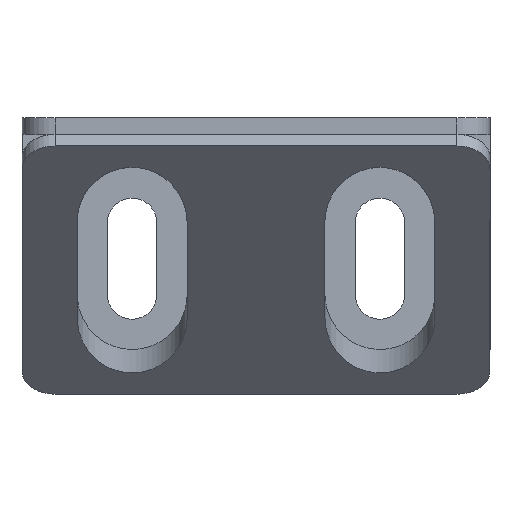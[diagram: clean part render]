
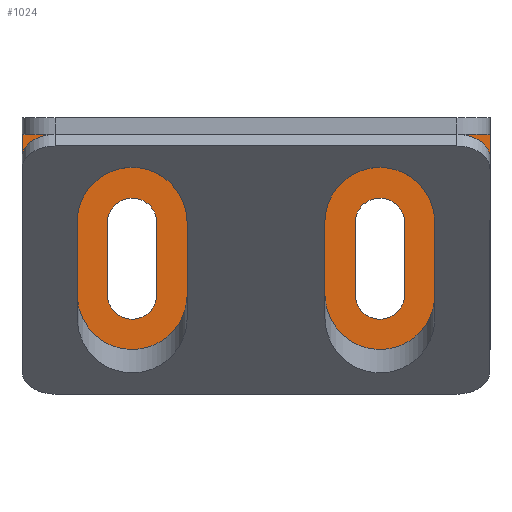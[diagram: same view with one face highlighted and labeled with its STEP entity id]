
A CAD part, top view. The second image highlights one B-rep face of the part: STEP entity #1024.
In plain terms, the highlighted planar face has unit normal (0, 0, 1).
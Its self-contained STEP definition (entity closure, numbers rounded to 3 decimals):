
#24 = CARTESIAN_POINT ( 'NONE',  ( 50.385, 16.123, 3. ) ) ;
#31 = LINE ( 'NONE', #1238, #1096 ) ;
#38 = EDGE_CURVE ( 'NONE', #722, #1137, #267, .T. ) ;
#41 = CARTESIAN_POINT ( 'NONE',  ( 30.385, -12.877, 3. ) ) ;
#47 = DIRECTION ( 'NONE',  ( 1., 0., 0. ) ) ;
#60 = CARTESIAN_POINT ( 'NONE',  ( 34.885, 0.123, 3. ) ) ;
#68 = VERTEX_POINT ( 'NONE', #1201 ) ;
#74 = CIRCLE ( 'NONE', #171, 4.5 ) ;
#81 = ORIENTED_EDGE ( 'NONE', *, *, #914, .F. ) ;
#92 = VERTEX_POINT ( 'NONE', #1305 ) ;
#99 = AXIS2_PLACEMENT_3D ( 'NONE', #41, #772, #142 ) ;
#102 = VERTEX_POINT ( 'NONE', #292 ) ;
#138 = DIRECTION ( 'NONE',  ( 1., 0., 0. ) ) ;
#142 = DIRECTION ( 'NONE',  ( 1., 0., 0. ) ) ;
#148 = LINE ( 'NONE', #1166, #1203 ) ;
#155 = CARTESIAN_POINT ( 'NONE',  ( 25.885, 0.123, 3. ) ) ;
#163 = LINE ( 'NONE', #60, #947 ) ;
#171 = AXIS2_PLACEMENT_3D ( 'NONE', #1176, #566, #1276 ) ;
#181 = DIRECTION ( 'NONE',  ( 0., 0., 1. ) ) ;
#209 = EDGE_CURVE ( 'NONE', #420, #900, #31, .T. ) ;
#216 = ORIENTED_EDGE ( 'NONE', *, *, #1242, .F. ) ;
#240 = CIRCLE ( 'NONE', #440, 4.5 ) ;
#243 = ORIENTED_EDGE ( 'NONE', *, *, #578, .F. ) ;
#258 = CARTESIAN_POINT ( 'NONE',  ( 25.885, -12.877, 3. ) ) ;
#263 = CARTESIAN_POINT ( 'NONE',  ( -10.115, 0.123, 3. ) ) ;
#267 = CIRCLE ( 'NONE', #931, 6. ) ;
#268 = VERTEX_POINT ( 'NONE', #535 ) ;
#278 = ORIENTED_EDGE ( 'NONE', *, *, #384, .T. ) ;
#281 = VERTEX_POINT ( 'NONE', #323 ) ;
#287 = EDGE_LOOP ( 'NONE', ( #601, #1287, #278, #727, #905, #689 ) ) ;
#292 = CARTESIAN_POINT ( 'NONE',  ( 34.885, -12.877, 3. ) ) ;
#299 = FACE_BOUND ( 'NONE', #799, .T. ) ;
#321 = CARTESIAN_POINT ( 'NONE',  ( 30.385, 0.123, 3. ) ) ;
#323 = CARTESIAN_POINT ( 'NONE',  ( 34.885, 0.123, 3. ) ) ;
#324 = DIRECTION ( 'NONE',  ( 0., 1., 0. ) ) ;
#331 = AXIS2_PLACEMENT_3D ( 'NONE', #350, #759, #1171 ) ;
#342 = ORIENTED_EDGE ( 'NONE', *, *, #209, .F. ) ;
#350 = CARTESIAN_POINT ( 'NONE',  ( -28.615, -22.877, 3. ) ) ;
#382 = EDGE_CURVE ( 'NONE', #438, #1099, #148, .T. ) ;
#384 = EDGE_CURVE ( 'NONE', #1137, #68, #418, .T. ) ;
#386 = CIRCLE ( 'NONE', #99, 4.5 ) ;
#389 = ORIENTED_EDGE ( 'NONE', *, *, #1280, .F. ) ;
#418 = LINE ( 'NONE', #656, #978 ) ;
#420 = VERTEX_POINT ( 'NONE', #155 ) ;
#428 = DIRECTION ( 'NONE',  ( 1., 0., 0. ) ) ;
#438 = VERTEX_POINT ( 'NONE', #1027 ) ;
#440 = AXIS2_PLACEMENT_3D ( 'NONE', #1278, #676, #47 ) ;
#482 = LINE ( 'NONE', #263, #1029 ) ;
#504 = AXIS2_PLACEMENT_3D ( 'NONE', #581, #1286, #682 ) ;
#533 = DIRECTION ( 'NONE',  ( -1., 0., 0. ) ) ;
#535 = CARTESIAN_POINT ( 'NONE',  ( -34.615, 16.123, 3. ) ) ;
#548 = LINE ( 'NONE', #967, #1062 ) ;
#559 = CARTESIAN_POINT ( 'NONE',  ( -10.115, 0.123, 3. ) ) ;
#566 = DIRECTION ( 'NONE',  ( 0., 0., 1. ) ) ;
#578 = EDGE_CURVE ( 'NONE', #281, #420, #895, .T. ) ;
#581 = CARTESIAN_POINT ( 'NONE',  ( 44.385, -22.877, 3. ) ) ;
#585 = FACE_OUTER_BOUND ( 'NONE', #287, .T. ) ;
#601 = ORIENTED_EDGE ( 'NONE', *, *, #1028, .T. ) ;
#642 = VERTEX_POINT ( 'NONE', #765 ) ;
#656 = CARTESIAN_POINT ( 'NONE',  ( 44.385, -28.877, 3. ) ) ;
#676 = DIRECTION ( 'NONE',  ( 0., 0., 1. ) ) ;
#682 = DIRECTION ( 'NONE',  ( 1., 0., 0. ) ) ;
#683 = FACE_BOUND ( 'NONE', #1114, .T. ) ;
#689 = ORIENTED_EDGE ( 'NONE', *, *, #1134, .T. ) ;
#691 = EDGE_CURVE ( 'NONE', #1099, #92, #240, .T. ) ;
#694 = VECTOR ( 'NONE', #533, 1000. ) ;
#719 = EDGE_CURVE ( 'NONE', #92, #1042, #482, .T. ) ;
#721 = CIRCLE ( 'NONE', #504, 6. ) ;
#722 = VERTEX_POINT ( 'NONE', #783 ) ;
#727 = ORIENTED_EDGE ( 'NONE', *, *, #728, .T. ) ;
#728 = EDGE_CURVE ( 'NONE', #68, #642, #721, .T. ) ;
#735 = DIRECTION ( 'NONE',  ( 0., -1., 0. ) ) ;
#759 = DIRECTION ( 'NONE',  ( 0., 0., 1. ) ) ;
#761 = LINE ( 'NONE', #1041, #694 ) ;
#762 = DIRECTION ( 'NONE',  ( 0., -1., 0. ) ) ;
#765 = CARTESIAN_POINT ( 'NONE',  ( 50.385, -22.877, 3. ) ) ;
#772 = DIRECTION ( 'NONE',  ( 0., 0., 1. ) ) ;
#783 = CARTESIAN_POINT ( 'NONE',  ( -34.615, -22.877, 3. ) ) ;
#799 = EDGE_LOOP ( 'NONE', ( #342, #243, #81, #216 ) ) ;
#803 = CARTESIAN_POINT ( 'NONE',  ( -28.615, -22.877, 3. ) ) ;
#804 = EDGE_CURVE ( 'NONE', #642, #1110, #836, .T. ) ;
#807 = VECTOR ( 'NONE', #1060, 1000. ) ;
#836 = LINE ( 'NONE', #24, #807 ) ;
#872 = DIRECTION ( 'NONE',  ( 0., -1., 0. ) ) ;
#877 = CARTESIAN_POINT ( 'NONE',  ( -19.115, -12.877, 3. ) ) ;
#895 = CIRCLE ( 'NONE', #945, 4.5 ) ;
#900 = VERTEX_POINT ( 'NONE', #258 ) ;
#904 = DIRECTION ( 'NONE',  ( 1., 0., 0. ) ) ;
#905 = ORIENTED_EDGE ( 'NONE', *, *, #804, .T. ) ;
#914 = EDGE_CURVE ( 'NONE', #102, #281, #163, .T. ) ;
#931 = AXIS2_PLACEMENT_3D ( 'NONE', #803, #181, #904 ) ;
#943 = CARTESIAN_POINT ( 'NONE',  ( -28.615, -28.877, 3. ) ) ;
#945 = AXIS2_PLACEMENT_3D ( 'NONE', #321, #1043, #428 ) ;
#947 = VECTOR ( 'NONE', #324, 1000. ) ;
#967 = CARTESIAN_POINT ( 'NONE',  ( -34.615, 16.123, 3. ) ) ;
#978 = VECTOR ( 'NONE', #138, 1000. ) ;
#983 = CARTESIAN_POINT ( 'NONE',  ( 50.385, 16.123, 3. ) ) ;
#986 = DIRECTION ( 'NONE',  ( 0., 1., 0. ) ) ;
#1024 = ADVANCED_FACE ( 'NONE', ( #683, #585, #299 ), #1258, .T. ) ;
#1027 = CARTESIAN_POINT ( 'NONE',  ( -19.115, 0.123, 3. ) ) ;
#1028 = EDGE_CURVE ( 'NONE', #268, #722, #548, .T. ) ;
#1029 = VECTOR ( 'NONE', #986, 1000. ) ;
#1041 = CARTESIAN_POINT ( 'NONE',  ( 50.385, 16.123, 3. ) ) ;
#1042 = VERTEX_POINT ( 'NONE', #559 ) ;
#1043 = DIRECTION ( 'NONE',  ( 0., 0., 1. ) ) ;
#1060 = DIRECTION ( 'NONE',  ( 0., 1., 0. ) ) ;
#1062 = VECTOR ( 'NONE', #872, 1000. ) ;
#1096 = VECTOR ( 'NONE', #735, 1000. ) ;
#1099 = VERTEX_POINT ( 'NONE', #877 ) ;
#1110 = VERTEX_POINT ( 'NONE', #983 ) ;
#1114 = EDGE_LOOP ( 'NONE', ( #1244, #389, #1122, #1207 ) ) ;
#1122 = ORIENTED_EDGE ( 'NONE', *, *, #719, .F. ) ;
#1134 = EDGE_CURVE ( 'NONE', #1110, #268, #761, .T. ) ;
#1137 = VERTEX_POINT ( 'NONE', #943 ) ;
#1166 = CARTESIAN_POINT ( 'NONE',  ( -19.115, 0.123, 3. ) ) ;
#1171 = DIRECTION ( 'NONE',  ( 1., 0., 0. ) ) ;
#1176 = CARTESIAN_POINT ( 'NONE',  ( -14.615, 0.123, 3. ) ) ;
#1201 = CARTESIAN_POINT ( 'NONE',  ( 44.385, -28.877, 3. ) ) ;
#1203 = VECTOR ( 'NONE', #762, 1000. ) ;
#1207 = ORIENTED_EDGE ( 'NONE', *, *, #691, .F. ) ;
#1238 = CARTESIAN_POINT ( 'NONE',  ( 25.885, 0.123, 3. ) ) ;
#1242 = EDGE_CURVE ( 'NONE', #900, #102, #386, .T. ) ;
#1244 = ORIENTED_EDGE ( 'NONE', *, *, #382, .F. ) ;
#1258 = PLANE ( 'NONE',  #331 ) ;
#1276 = DIRECTION ( 'NONE',  ( 1., 0., 0. ) ) ;
#1278 = CARTESIAN_POINT ( 'NONE',  ( -14.615, -12.877, 3. ) ) ;
#1280 = EDGE_CURVE ( 'NONE', #1042, #438, #74, .T. ) ;
#1286 = DIRECTION ( 'NONE',  ( 0., 0., 1. ) ) ;
#1287 = ORIENTED_EDGE ( 'NONE', *, *, #38, .T. ) ;
#1305 = CARTESIAN_POINT ( 'NONE',  ( -10.115, -12.877, 3. ) ) ;
